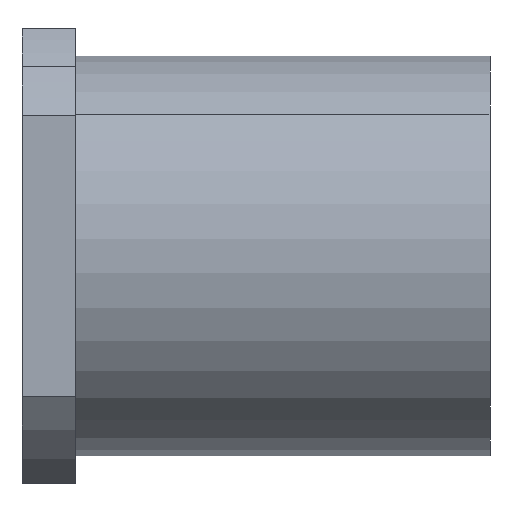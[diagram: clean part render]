
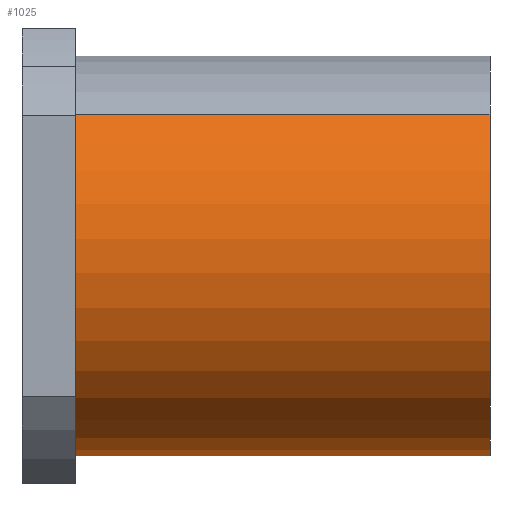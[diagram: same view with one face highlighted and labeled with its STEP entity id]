
A CAD part, front view. The second image highlights one B-rep face of the part: STEP entity #1025.
In plain terms, the highlighted cylindrical face has radius 75 mm (diameter 150 mm), a partial arc.
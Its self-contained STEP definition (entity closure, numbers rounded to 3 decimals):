
#19 = DIRECTION ( 'NONE',  ( 0., 0.707, -0.707 ) ) ;
#42 = ORIENTED_EDGE ( 'NONE', *, *, #165, .T. ) ;
#49 = AXIS2_PLACEMENT_3D ( 'NONE', #927, #1080, #19 ) ;
#52 = DIRECTION ( 'NONE',  ( -1., 0., 0. ) ) ;
#79 = CIRCLE ( 'NONE', #738, 75. ) ;
#87 = LINE ( 'NONE', #633, #380 ) ;
#89 = CARTESIAN_POINT ( 'NONE',  ( 20., -53.033, 53.033 ) ) ;
#106 = VECTOR ( 'NONE', #52, 1000. ) ;
#165 = EDGE_CURVE ( 'NONE', #166, #854, #87, .T. ) ;
#166 = VERTEX_POINT ( 'NONE', #722 ) ;
#168 = EDGE_CURVE ( 'NONE', #166, #779, #79, .T. ) ;
#209 = CYLINDRICAL_SURFACE ( 'NONE', #49, 75. ) ;
#222 = ORIENTED_EDGE ( 'NONE', *, *, #168, .F. ) ;
#272 = DIRECTION ( 'NONE',  ( 0., 0.707, -0.707 ) ) ;
#299 = EDGE_LOOP ( 'NONE', ( #222, #42, #1101, #861 ) ) ;
#380 = VECTOR ( 'NONE', #1167, 1000. ) ;
#462 = AXIS2_PLACEMENT_3D ( 'NONE', #730, #647, #554 ) ;
#548 = FACE_OUTER_BOUND ( 'NONE', #299, .T. ) ;
#552 = DIRECTION ( 'NONE',  ( 1., 0., 0. ) ) ;
#554 = DIRECTION ( 'NONE',  ( 0., 0.707, -0.707 ) ) ;
#633 = CARTESIAN_POINT ( 'NONE',  ( 175., -53.033, 53.033 ) ) ;
#647 = DIRECTION ( 'NONE',  ( 1., 0., 0. ) ) ;
#667 = CARTESIAN_POINT ( 'NONE',  ( 175., 53.033, -53.033 ) ) ;
#722 = CARTESIAN_POINT ( 'NONE',  ( 175., -53.033, 53.033 ) ) ;
#730 = CARTESIAN_POINT ( 'NONE',  ( 20., 0., 0. ) ) ;
#734 = CARTESIAN_POINT ( 'NONE',  ( 175., 0., 0. ) ) ;
#738 = AXIS2_PLACEMENT_3D ( 'NONE', #734, #552, #272 ) ;
#779 = VERTEX_POINT ( 'NONE', #953 ) ;
#854 = VERTEX_POINT ( 'NONE', #89 ) ;
#861 = ORIENTED_EDGE ( 'NONE', *, *, #1105, .F. ) ;
#879 = CIRCLE ( 'NONE', #462, 75. ) ;
#927 = CARTESIAN_POINT ( 'NONE',  ( 175., 0., 0. ) ) ;
#950 = CARTESIAN_POINT ( 'NONE',  ( 20., 53.033, -53.033 ) ) ;
#953 = CARTESIAN_POINT ( 'NONE',  ( 175., 53.033, -53.033 ) ) ;
#1025 = ADVANCED_FACE ( 'NONE', ( #548 ), #209, .T. ) ;
#1069 = EDGE_CURVE ( 'NONE', #854, #1141, #879, .T. ) ;
#1080 = DIRECTION ( 'NONE',  ( -1., 0., 0. ) ) ;
#1087 = LINE ( 'NONE', #667, #106 ) ;
#1101 = ORIENTED_EDGE ( 'NONE', *, *, #1069, .T. ) ;
#1105 = EDGE_CURVE ( 'NONE', #779, #1141, #1087, .T. ) ;
#1141 = VERTEX_POINT ( 'NONE', #950 ) ;
#1167 = DIRECTION ( 'NONE',  ( -1., 0., 0. ) ) ;
